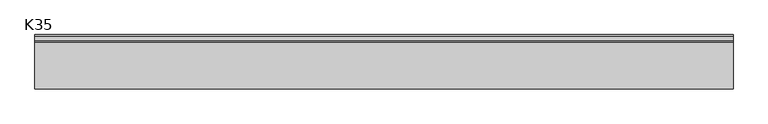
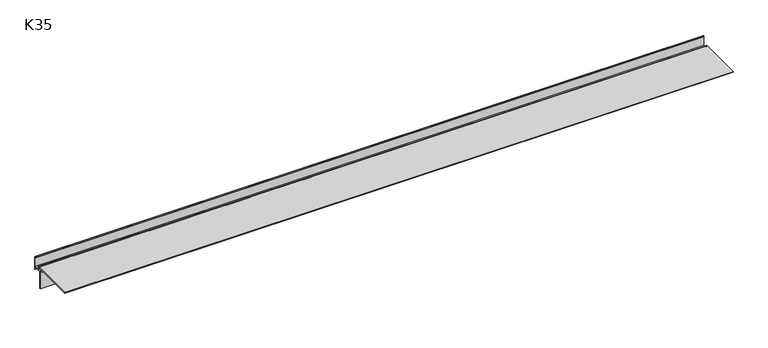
"""IFC4 building model written with IfcOpenShell, lengths in millimetres: proxy geometry, K35 Profil okapowy prosty z rynną : K35."""

import ifcopenshell
import ifcopenshell.guid

model = None  # the IFC model being written
_history = None  # IfcOwnerHistory: only IFC2X3 demands one
_inside = {}  # id of a spatial element -> (the spatial element, [elements in it])
_under = {}  # id of a project, library or spatial element -> (it, [spatial elements below it])
_declared = {}  # id of a project -> (the project, [libraries it declares])
_typed = {}  # id of a type object -> (the type object, [elements of that type])
_made_of = {}  # id of a material, layer set ... -> (it, [elements and type objects made of it])


def new_model(schema):
    """Start an empty IFC model of exactly this schema.

    Asked for "IFC4X3", IfcOpenShell would pick the latest addendum, in which some entities
    have other attributes; the version numbers below select the first issue.
    IFC2X3 requires an IfcOwnerHistory on every rooted entity: one is made here for all.
    """
    global model, _history
    if schema == "IFC4X3":
        model = ifcopenshell.file(schema_version=(4, 3, 0, 0))
    else:
        model = ifcopenshell.file(schema=schema)
    _inside.clear()
    _under.clear()
    _declared.clear()
    _typed.clear()
    _made_of.clear()
    _history = None
    if model.schema == "IFC2X3":
        org = make("IfcOrganization", Name="unknown")
        user = make(
            "IfcPersonAndOrganization",
            ThePerson=make("IfcPerson", FamilyName="unknown"),
            TheOrganization=org,
        )
        app = make(
            "IfcApplication",
            ApplicationDeveloper=org,
            Version="unknown",
            ApplicationFullName="unknown",
            ApplicationIdentifier="unknown",
        )
        _history = make(
            "IfcOwnerHistory",
            OwningUser=user,
            OwningApplication=app,
            ChangeAction="ADDED",
            CreationDate=0,
        )
    return model


def make(cls, **values):
    """One entity of the class cls with the attributes given. An attribute that is None is left unset."""
    return model.create_entity(
        cls, **{name: value for name, value in values.items() if value is not None}
    )


def rooted(cls, **values):
    """An entity with a GlobalId (a new one), such as an element, a storey or a relation."""
    return make(cls, GlobalId=ifcopenshell.guid.new(), OwnerHistory=_history, **values)


def si_unit(unit_type, name, prefix=None):
    """IfcSIUnit, for example si_unit("LENGTHUNIT", "METRE", prefix="MILLI")."""
    return make("IfcSIUnit", UnitType=unit_type, Prefix=prefix, Name=name)


def assignment(units):
    """IfcUnitAssignment: the units of a project."""
    return None if units is None else make("IfcUnitAssignment", Units=units)


def point(xyz):
    """IfcCartesianPoint."""
    return None if xyz is None else make("IfcCartesianPoint", Coordinates=xyz)


def direction(xyz):
    """IfcDirection."""
    return None if xyz is None else make("IfcDirection", DirectionRatios=xyz)


def frame(location, z_axis=None, x_axis=None):
    """IfcAxis2Placement3D, a coordinate frame: its origin and axes. An axis left out is left unset."""
    return make(
        "IfcAxis2Placement3D",
        Location=point(location),
        Axis=direction(z_axis),
        RefDirection=direction(x_axis),
    )


def frame_2d(location, x_axis=None):
    """IfcAxis2Placement2D, a coordinate frame in the plane: its origin and x axis."""
    return make(
        "IfcAxis2Placement2D", Location=point(location), RefDirection=direction(x_axis)
    )


def origin():
    """The frame at (0, 0, 0) with its axes left unset."""
    return frame((0.0, 0.0, 0.0))


def place(relative_to, where):
    """IfcLocalPlacement: puts the frame where relative to a parent placement (None: the world)."""
    return make(
        "IfcLocalPlacement", PlacementRelTo=relative_to, RelativePlacement=where
    )


def context(
    kind, dimensions, precision=None, world=None, true_north=None, identifier=None
):
    """IfcGeometricRepresentationContext, for example the 3D "Model" context."""
    return make(
        "IfcGeometricRepresentationContext",
        ContextIdentifier=identifier,
        ContextType=kind,
        CoordinateSpaceDimension=dimensions,
        Precision=precision,
        WorldCoordinateSystem=world,
        TrueNorth=true_north,
    )


def project(units=None, contexts=None):
    """IfcProject with its units and contexts."""
    return rooted(
        "IfcProject",
        Name="project",
        RepresentationContexts=contexts,
        UnitsInContext=assignment(units),
    )


def spatial(cls, under=None, at=None, **own):
    """A site, building, storey or space (cls), placed at a placement, below another one or the project."""
    s = rooted(cls, ObjectPlacement=at, **own)
    if under is not None:
        _under.setdefault(under.id(), (under, []))[1].append(s)
    return s


def polyline(points):
    """IfcPolyline through the points."""
    return make("IfcPolyline", Points=[point(p) for p in points])


def circle_curve(where, radius):
    """IfcCircle in the frame where."""
    return make("IfcCircle", Position=where, Radius=radius)


def trimmed(basis, trim1, trim2, sense, master):
    """IfcTrimmedCurve: the piece of a basis curve between two trims."""
    return make(
        "IfcTrimmedCurve",
        BasisCurve=basis,
        Trim1=trim1,
        Trim2=trim2,
        SenseAgreement=sense,
        MasterRepresentation=master,
    )


def segment(curve, same_sense, transition):
    """IfcCompositeCurveSegment."""
    return make(
        "IfcCompositeCurveSegment",
        Transition=transition,
        SameSense=same_sense,
        ParentCurve=curve,
    )


def composite_curve(segments, self_intersect=None):
    """IfcCompositeCurve: segments joined end to end."""
    return make("IfcCompositeCurve", Segments=segments, SelfIntersect=self_intersect)


def outline(outer, holes=None, kind="AREA"):
    """IfcArbitraryClosedProfileDef: a profile drawn as a closed curve; with holes, ...WithVoids."""
    if holes is None:
        return make("IfcArbitraryClosedProfileDef", ProfileType=kind, OuterCurve=outer)
    return make(
        "IfcArbitraryProfileDefWithVoids",
        ProfileType=kind,
        OuterCurve=outer,
        InnerCurves=holes,
    )


def extrude(swept, where, along, depth):
    """IfcExtrudedAreaSolid: the profile swept, set in the frame where, extruded along a direction by depth."""
    return make(
        "IfcExtrudedAreaSolid",
        SweptArea=swept,
        Position=where,
        ExtrudedDirection=direction(along),
        Depth=depth,
    )


def shape(context_of_items, identifier, shape_type, items):
    """IfcShapeRepresentation: the items that make up one representation, for example the "Body"."""
    return make(
        "IfcShapeRepresentation",
        ContextOfItems=context_of_items,
        RepresentationIdentifier=identifier,
        RepresentationType=shape_type,
        Items=items,
    )


def source(mapping_origin, context_of_items, identifier, shape_type, items):
    """IfcRepresentationMap: a shape defined once, which mapped items show again and again."""
    return make(
        "IfcRepresentationMap",
        MappingOrigin=mapping_origin,
        MappedRepresentation=shape(context_of_items, identifier, shape_type, items),
    )


def transform(
    local_origin,
    x_axis=None,
    y_axis=None,
    z_axis=None,
    scale=None,
    scale2=None,
    scale3=None,
    uniform=True,
):
    """IfcCartesianTransformationOperator3D, or its non-uniform kind. x_axis, y_axis, z_axis: its Axis1, 2, 3."""
    if uniform:
        return make(
            "IfcCartesianTransformationOperator3D",
            Axis1=direction(x_axis),
            Axis2=direction(y_axis),
            LocalOrigin=point(local_origin),
            Scale=scale,
            Axis3=direction(z_axis),
        )
    return make(
        "IfcCartesianTransformationOperator3DnonUniform",
        Axis1=direction(x_axis),
        Axis2=direction(y_axis),
        LocalOrigin=point(local_origin),
        Scale=scale,
        Axis3=direction(z_axis),
        Scale2=scale2,
        Scale3=scale3,
    )


def mapped(mapping_source, mapping_target):
    """IfcMappedItem: shows the shape of a source again, moved by a transform."""
    return make(
        "IfcMappedItem", MappingSource=mapping_source, MappingTarget=mapping_target
    )


def made_of(thing, what):
    """Note that an element or type object is made of a material, layer set ...; save() writes the relation."""
    if what is not None:
        _made_of.setdefault(what.id(), (what, []))[1].append(thing)
    return thing


def element(
    cls,
    number,
    at=None,
    inside=None,
    cuts=None,
    type_object=None,
    material=None,
    context=None,
    identifier="Body",
    shape_type=None,
    held_by="IfcProductDefinitionShape",
    body=None,
    shapes=None,
    **own,
):
    """One element of the class cls, such as IfcWall. Its Tag is "e" and its number.

    at: its placement. inside: the storey or other place that contains it. cuts: it is an
    opening in that element (IfcRelVoidsElement). A single representation is given by context,
    identifier, shape_type and body (its items); several are given by shapes. held_by: the class
    of the entity that holds the representations. save() writes the other relations.
    """
    e = rooted(cls, Tag="e%d" % number, ObjectPlacement=at, **own)
    if body is not None:
        shapes = [shape(context, identifier, shape_type, body)]
    if shapes is not None:
        e.Representation = make(held_by, Representations=shapes)
    if inside is not None:
        _inside.setdefault(inside.id(), (inside, []))[1].append(e)
    if cuts is not None:
        rooted(
            "IfcRelVoidsElement", RelatingBuildingElement=cuts, RelatedOpeningElement=e
        )
    if type_object is not None:
        _typed.setdefault(type_object.id(), (type_object, []))[1].append(e)
    return made_of(e, material)


def aggregate(whole, parts):
    """IfcRelAggregates: a whole, such as a stair, and the parts it consists of."""
    return rooted("IfcRelAggregates", RelatingObject=whole, RelatedObjects=parts)


def save(model, path):
    """Write the relations noted so far, then the file.

    IfcRelAggregates (storeys below a building ...), IfcRelContainedInSpatialStructure (elements
    in a storey), IfcRelDefinesByType, IfcRelAssociatesMaterial and IfcRelDeclares: one each for
    every whole, place, type object, material and project.
    """
    for whole, parts in _under.values():
        aggregate(whole, parts)
    for where, things in _inside.values():
        rooted(
            "IfcRelContainedInSpatialStructure",
            RelatedElements=things,
            RelatingStructure=where,
        )
    for kind, things in _typed.values():
        rooted("IfcRelDefinesByType", RelatedObjects=things, RelatingType=kind)
    for what, things in _made_of.values():
        rooted("IfcRelAssociatesMaterial", RelatedObjects=things, RelatingMaterial=what)
    for by, libraries in _declared.values():
        rooted("IfcRelDeclares", RelatingContext=by, RelatedDefinitions=libraries)
    model.write(path)


def k35_6c38cc01(model_context):
    return source(origin(), model_context, "Body", "SweptSolid", [
        extrude(outline(composite_curve([segment(trimmed(circle_curve(frame_2d((-0.4087938, -2.8812097)), 2.9102158), [point((0.0010677, 0.0))], [point((2.5010677, -2.8358001))], False, "CARTESIAN"), True, "CONTINUOUS"), segment(polyline([(2.5010677, -2.8358001), (2.5010677, -26.8), (1.0010677, -25.549015), (1.0010677, -21.1829113), (-8.5231229, -21.1829113), (-8.5231229, -22.7095005), (-10.049712, -21.1829113), (-13.5989323, -21.1829113), (-13.5989323, -54.7), (-15.0989323, -54.7), (-15.0989323, -14.9), (-20.0989323, -14.9), (-20.0989323, -17.8969711), (-21.5989323, -17.8969711), (-21.5989323, -14.9), (-95.0989323, -14.9), (-95.0989323, -13.5), (-11.0612599, -13.5)]), True, "CONTINUOUS"), segment(trimmed(circle_curve(frame_2d((-11.0612599, -16.1266316)), 2.6266316), [point((-11.0612599, -13.5))], [point((-8.4405044, -16.3022282))], False, "CARTESIAN"), True, "CONTINUOUS"), segment(polyline([(-8.4405044, -16.3022282), (-9.9435317, -16.3022282)]), True, "CONTINUOUS"), segment(trimmed(circle_curve(frame_2d((-11.3457599, -16.3022282)), 1.4022282), [point((-9.9435317, -16.3022282))], [point((-11.3457599, -14.9))], True, "CARTESIAN"), True, "CONTINUOUS"), segment(polyline([(-11.3457599, -14.9), (-13.1366439, -14.9), (-13.1366439, -19.6829113), (1.0010677, -19.6829113), (1.0010677, -2.8358001)]), True, "CONTINUOUS"), segment(trimmed(circle_curve(frame_2d((0.0010677, -2.8358001)), 1.0), [point((1.0010677, -2.8358001))], [point((0.0010677, -1.8358001))], True, "CARTESIAN"), True, "CONTINUOUS"), segment(polyline([(0.0010677, -1.8358001), (0.0010677, 0.0)]), True, "CONTINUOUS")], self_intersect=False)), frame((0.0, 0.0, 0.0), z_axis=(1.0, 0.0, 0.0), x_axis=(0.0, 1.0, 0.0)), (0.0, 0.0, 1.0), 1254.4003945),
    ])


if __name__ == "__main__":
    model = new_model("IFC4")
    model_context = context("Model", 3, world=origin())
    ifc_project = project(units=[si_unit("LENGTHUNIT", "METRE", prefix="MILLI")], contexts=[model_context])
    site = spatial("IfcSite", under=ifc_project)
    building = spatial("IfcBuilding", under=site)
    placement = place(None, origin())
    k35_shape = k35_6c38cc01(model_context)
    element("IfcBuildingElementProxy", 1, Name="K35 Profil okapowy prosty z rynną : K35", ObjectType="K35 Profil okapowy prosty z rynną : K35", at=placement, inside=building, context=model_context, shape_type="MappedRepresentation", body=[
        mapped(k35_shape, transform((0.0, 0.0, 0.0), x_axis=(1.0, 0.0, 0.0), y_axis=(0.0, 1.0, 0.0), z_axis=(0.0, 0.0, 1.0))),
    ])
    save(model, "model.ifc")
